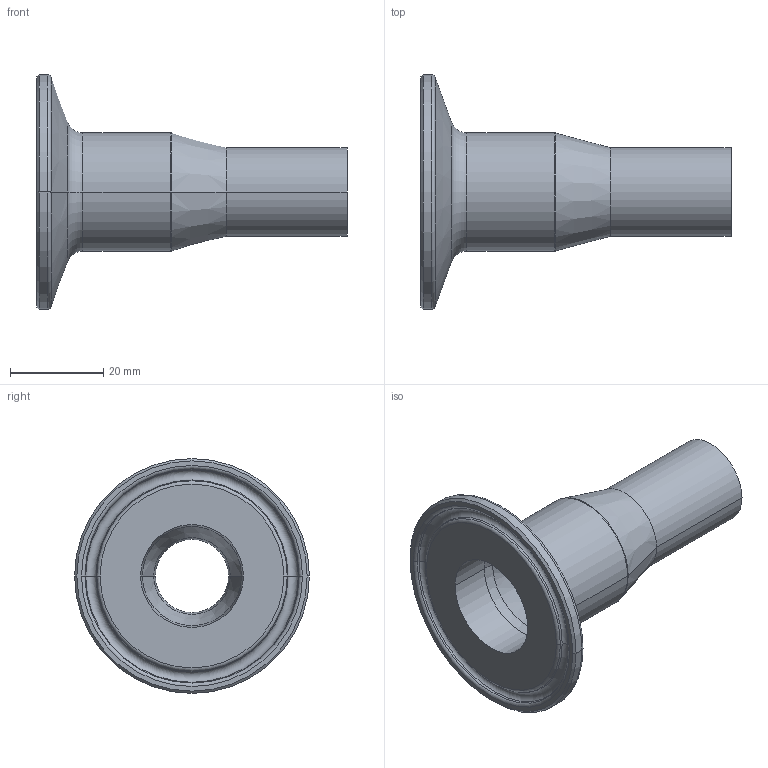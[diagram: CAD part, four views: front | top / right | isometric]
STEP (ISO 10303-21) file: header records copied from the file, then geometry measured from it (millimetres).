
FILE_DESCRIPTION (( 'STEP AP214' ), '1' );
FILE_NAME ('TE31SCW6L1.0x.75-...STEP', '2016-05-29T10:49:41', ( 'eran' ), ( '' ), 'SwSTEP 2.0', 'SolidWorks 2016', '' );
FILE_SCHEMA (( 'AUTOMOTIVE_DESIGN' ));
Length unit declared in the file: millimetre
Products named in the file (1): TE31SCW6L1.0x.75-..
Bounding box: 66.67 x 50.5 x 50.5 mm (x, y, z)
Volume: 17879.2 mm3; surface area: 11580.3 mm2
Topology: 1 solids, 1 shells, 41 faces, 82 edges, 44 vertices
Faces by surface type: torus 16, cone 12, cylinder 10, plane 3
Entity records: 1098 total; most frequent: DIRECTION 226, CARTESIAN_POINT 168, ORIENTED_EDGE 164, AXIS2_PLACEMENT_3D 102, EDGE_CURVE 82, CIRCLE 60, VERTEX_POINT 44, EDGE_LOOP 44
